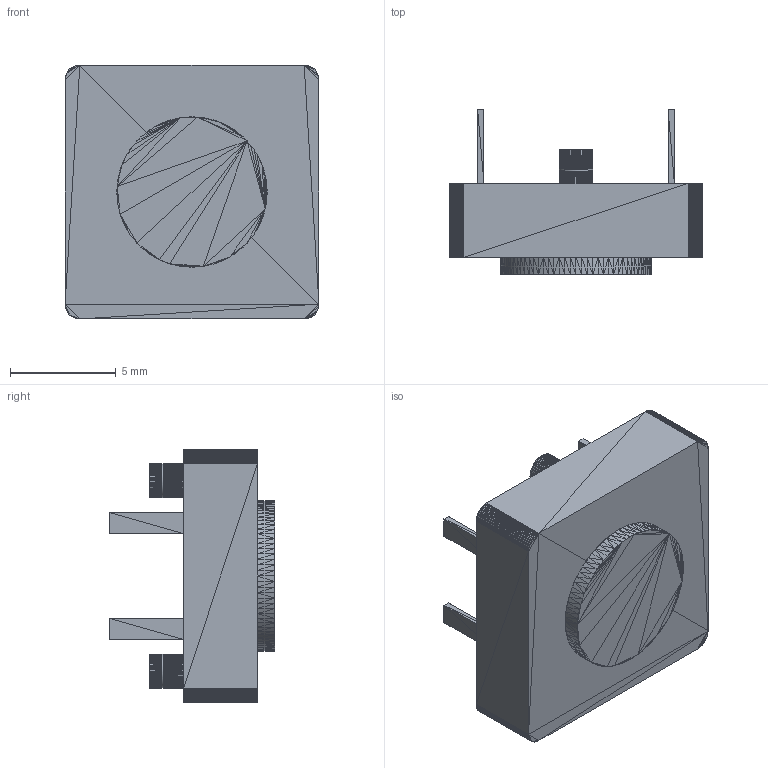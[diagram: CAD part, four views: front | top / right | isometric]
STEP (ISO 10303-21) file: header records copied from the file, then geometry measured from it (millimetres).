
FILE_DESCRIPTION(('Open CASCADE Model'),'2;1');
FILE_NAME('REF_sw_B3F-4000_play','2026-09-08T13:43:21',('Author'),( 'Open CASCADE'),'Open CASCADE STEP processor 7.8','build123d', 'Unknown');
FILE_SCHEMA(('AUTOMOTIVE_DESIGN { 1 0 10303 214 1 1 1 1 }'));
Length unit declared in the file: millimetre
Products named in the file (10): =>[0:1:1:2]; REF_sw_B3F-4000_play; SOLID
Assembly tree (9 placements, depth 3):
  =>[0:1:1:2]
    REF_sw_B3F-4000_play
      SOLID
      SOLID
      SOLID
      SOLID
      SOLID
      SOLID
      SOLID
      SOLID
Bounding box: 12 x 7.8 x 12 mm (x, y, z)
Volume: 544.8 mm3; surface area: 610.8 mm2
Topology: 8 solids, 8 shells, 1392 faces, 2088 edges, 712 vertices
Faces by surface type: plane 1392
Entity records: 54514 total; most frequent: DIRECTION 9068, CARTESIAN_POINT 8378, LINE 6264, VECTOR 6264, ORIENTED_EDGE 4176, PCURVE 4176, DEFINITIONAL_REPRESENTATION 4176, EDGE_CURVE 2088
